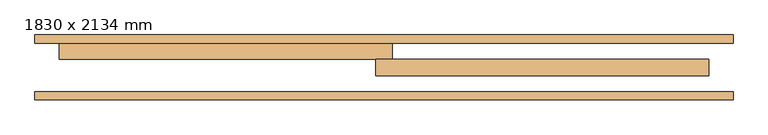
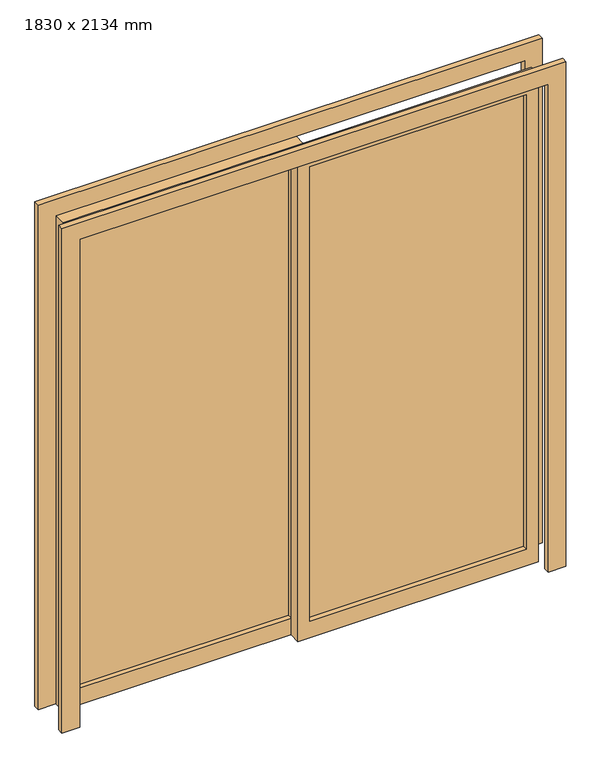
"""IFC4 building model written with IfcOpenShell, lengths in millimetres: door geometry, Deslizante-2 Painéis : 1830 x 2134 mm."""

from ifc_helpers import new_model, si_unit, frame, origin, place, context, project, spatial, polyline, outline, extrude, source, transform, mapped, element, save


def door_1830_x_2134_mm_f72b9c68(model_context):
    return source(origin(), model_context, "Body", "SweptSolid", [
        extrude(outline(polyline([(25.4, 130.175), (950.0, 130.175), (950.0, 123.825), (25.4, 123.825), (25.4, 130.175)])), frame((0.0, 0.0, 75.0), z_axis=(0.0, 0.0, 1.0), x_axis=(1.0, 0.0, 0.0)), (0.0, 0.0, 1.0), 2050.0),
        extrude(outline(polyline([(2200.0, -25.4), (0.0, -25.4), (0.0, 1000.0), (2200.0, 1000.0), (2200.0, -25.4)]), holes=[polyline([(2125.0, 24.6), (2125.0, 950.0), (75.0, 950.0), (75.0, 24.6), (2125.0, 24.6)])]), frame((0.0, 102.0, 0.0), z_axis=(0.0, 1.0, 0.0), x_axis=(0.0, 0.0, 1.0)), (0.0, 0.0, 1.0), 50.0),
        extrude(outline(polyline([(-950.0, 180.175), (-24.6, 180.175), (-24.6, 173.825), (-950.0, 173.825), (-950.0, 180.175)])), frame((0.0, 0.0, 75.0), z_axis=(0.0, 0.0, 1.0), x_axis=(1.0, 0.0, 0.0)), (0.0, 0.0, 1.0), 2050.0),
        extrude(outline(polyline([(2200.0, 25.4), (2200.0, -1000.0), (0.0, -1000.0), (0.0, 25.4), (2200.0, 25.4)]), holes=[polyline([(2125.0, -24.6), (75.0, -24.6), (75.0, -950.0), (2125.0, -950.0), (2125.0, -24.6)])]), frame((0.0, 152.0, 0.0), z_axis=(0.0, 1.0, 0.0), x_axis=(0.0, 0.0, 1.0)), (0.0, 0.0, 1.0), 50.0),
        extrude(outline(polyline([(0.0, -1075.0), (0.0, -1000.0), (2200.0, -1000.0), (2200.0, 1000.0), (0.0, 1000.0), (0.0, 1075.0), (2275.0, 1075.0), (2275.0, -1075.0), (0.0, -1075.0)])), frame((0.0, 27.0, 0.0), z_axis=(0.0, 1.0, 0.0), x_axis=(0.0, 0.0, 1.0)), (0.0, 0.0, 1.0), 25.0),
        extrude(outline(polyline([(0.0, 1075.0), (2275.0, 1075.0), (2275.0, -1075.0), (0.0, -1075.0), (0.0, -1000.0), (2200.0, -1000.0), (2200.0, 1000.0), (0.0, 1000.0), (0.0, 1075.0)])), frame((0.0, 202.0, 0.0), z_axis=(0.0, 1.0, 0.0), x_axis=(0.0, 0.0, 1.0)), (0.0, 0.0, 1.0), 25.0),
    ])


if __name__ == "__main__":
    model = new_model("IFC4")
    model_context = context("Model", 3, world=origin())
    ifc_project = project(units=[si_unit("LENGTHUNIT", "METRE", prefix="MILLI")], contexts=[model_context])
    site = spatial("IfcSite", under=ifc_project)
    building = spatial("IfcBuilding", under=site)
    placement = place(None, origin())
    door_1830_x_2134_mm_shape = door_1830_x_2134_mm_f72b9c68(model_context)
    element("IfcDoor", 1, ObjectType="Deslizante-2 Painéis : 1830 x 2134 mm", at=placement, inside=building, context=model_context, shape_type="MappedRepresentation", body=[
        mapped(door_1830_x_2134_mm_shape, transform((0.0, 0.0, 0.0), x_axis=(1.0, 0.0, 0.0), y_axis=(0.0, 1.0, 0.0), z_axis=(0.0, 0.0, 1.0))),
    ])
    save(model, "model.ifc")
